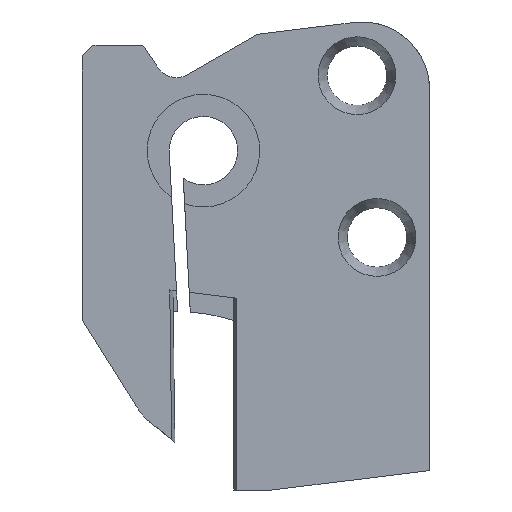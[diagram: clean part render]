
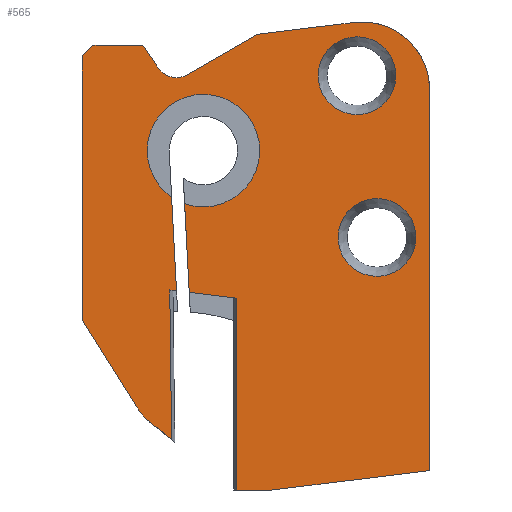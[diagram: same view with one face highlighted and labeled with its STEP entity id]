
A CAD part, left-side view. The second image highlights one B-rep face of the part: STEP entity #565.
In plain terms, the highlighted planar face has unit normal (-1, 0, 0).
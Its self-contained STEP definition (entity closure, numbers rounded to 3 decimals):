
#357=AXIS2_PLACEMENT_3D('Plane Axis2P3D',#354,#355,#356) ;
#384=AXIS2_PLACEMENT_3D('Circle Axis2P3D',#382,#383,$) ;
#403=AXIS2_PLACEMENT_3D('Circle Axis2P3D',#401,#402,$) ;
#410=AXIS2_PLACEMENT_3D('Circle Axis2P3D',#408,#409,$) ;
#417=AXIS2_PLACEMENT_3D('Circle Axis2P3D',#415,#416,$) ;
#466=AXIS2_PLACEMENT_3D('Circle Axis2P3D',#464,#465,$) ;
#487=AXIS2_PLACEMENT_3D('Circle Axis2P3D',#485,#486,$) ;
#531=AXIS2_PLACEMENT_3D('Circle Axis2P3D',#529,#530,$) ;
#540=AXIS2_PLACEMENT_3D('Circle Axis2P3D',#538,#539,$) ;
#549=AXIS2_PLACEMENT_3D('Circle Axis2P3D',#547,#548,$) ;
#558=AXIS2_PLACEMENT_3D('Circle Axis2P3D',#556,#557,$) ;
#205=CARTESIAN_POINT('Vertex',(-7.2,24.524,-48.127)) ;
#208=CARTESIAN_POINT('Line Origine',(-7.2,25.612,-47.246)) ;
#212=CARTESIAN_POINT('Vertex',(-7.2,26.7,-46.365)) ;
#335=CARTESIAN_POINT('Line Origine',(-7.2,24.611,-41.018)) ;
#339=CARTESIAN_POINT('Vertex',(-7.2,24.698,-33.91)) ;
#354=CARTESIAN_POINT('Axis2P3D Location',(-7.2,24.,-53.925)) ;
#359=CARTESIAN_POINT('Line Origine',(-7.2,32.5,-11.163)) ;
#363=CARTESIAN_POINT('Vertex',(-7.2,32.,-10.663)) ;
#365=CARTESIAN_POINT('Vertex',(-7.2,33.,-11.663)) ;
#368=CARTESIAN_POINT('Line Origine',(-7.2,33.,-24.23)) ;
#372=CARTESIAN_POINT('Vertex',(-7.2,33.,-36.797)) ;
#375=CARTESIAN_POINT('Line Origine',(-7.2,30.397,-40.963)) ;
#379=CARTESIAN_POINT('Vertex',(-7.2,27.794,-45.129)) ;
#382=CARTESIAN_POINT('Axis2P3D Location',(-7.2,23.553,-42.479)) ;
#387=CARTESIAN_POINT('Line Origine',(-7.2,24.377,-33.949)) ;
#391=CARTESIAN_POINT('Vertex',(-7.2,24.056,-33.988)) ;
#394=CARTESIAN_POINT('Line Origine',(-7.2,24.29,-29.531)) ;
#398=CARTESIAN_POINT('Vertex',(-7.2,24.523,-25.074)) ;
#401=CARTESIAN_POINT('Axis2P3D Location',(-7.2,21.5,-20.66)) ;
#405=CARTESIAN_POINT('Vertex',(-7.2,26.195,-23.225)) ;
#408=CARTESIAN_POINT('Axis2P3D Location',(-7.2,21.5,-20.66)) ;
#412=CARTESIAN_POINT('Vertex',(-7.2,16.805,-18.095)) ;
#415=CARTESIAN_POINT('Axis2P3D Location',(-7.2,21.5,-20.66)) ;
#419=CARTESIAN_POINT('Vertex',(-7.2,23.289,-25.702)) ;
#422=CARTESIAN_POINT('Line Origine',(-7.2,23.068,-29.92)) ;
#426=CARTESIAN_POINT('Vertex',(-7.2,22.847,-34.137)) ;
#429=CARTESIAN_POINT('Line Origine',(-7.2,20.59,-34.414)) ;
#433=CARTESIAN_POINT('Vertex',(-7.2,18.334,-34.691)) ;
#436=CARTESIAN_POINT('Line Origine',(-7.2,18.334,-43.808)) ;
#440=CARTESIAN_POINT('Vertex',(-7.2,18.334,-52.925)) ;
#443=CARTESIAN_POINT('Line Origine',(-7.2,16.667,-52.925)) ;
#447=CARTESIAN_POINT('Vertex',(-7.2,15.,-52.925)) ;
#450=CARTESIAN_POINT('Line Origine',(-7.2,7.5,-52.004)) ;
#454=CARTESIAN_POINT('Vertex',(-7.2,0.,-51.083)) ;
#457=CARTESIAN_POINT('Line Origine',(-7.2,0.,-32.954)) ;
#461=CARTESIAN_POINT('Vertex',(-7.2,0.,-14.825)) ;
#464=CARTESIAN_POINT('Axis2P3D Location',(-7.2,6.4,-14.825)) ;
#468=CARTESIAN_POINT('Vertex',(-7.2,7.18,-8.473)) ;
#471=CARTESIAN_POINT('Line Origine',(-7.2,11.76,-9.036)) ;
#475=CARTESIAN_POINT('Vertex',(-7.2,16.34,-9.598)) ;
#478=CARTESIAN_POINT('Line Origine',(-7.2,19.67,-11.52)) ;
#482=CARTESIAN_POINT('Vertex',(-7.2,23.,-13.443)) ;
#485=CARTESIAN_POINT('Axis2P3D Location',(-7.2,24.05,-11.624)) ;
#489=CARTESIAN_POINT('Vertex',(-7.2,25.784,-12.809)) ;
#492=CARTESIAN_POINT('Line Origine',(-7.2,26.517,-11.736)) ;
#496=CARTESIAN_POINT('Vertex',(-7.2,27.25,-10.663)) ;
#499=CARTESIAN_POINT('Line Origine',(-7.2,29.625,-10.663)) ;
#529=CARTESIAN_POINT('Axis2P3D Location',(-7.2,5.,-28.916)) ;
#533=CARTESIAN_POINT('Vertex',(-7.2,1.755,-27.143)) ;
#535=CARTESIAN_POINT('Vertex',(-7.2,8.245,-30.689)) ;
#538=CARTESIAN_POINT('Axis2P3D Location',(-7.2,5.,-28.916)) ;
#547=CARTESIAN_POINT('Axis2P3D Location',(-7.2,6.9,-13.535)) ;
#551=CARTESIAN_POINT('Vertex',(-7.2,3.655,-11.763)) ;
#553=CARTESIAN_POINT('Vertex',(-7.2,10.145,-15.308)) ;
#556=CARTESIAN_POINT('Axis2P3D Location',(-7.2,6.9,-13.535)) ;
#209=DIRECTION('Vector Direction',(0.,-0.777,-0.629)) ;
#336=DIRECTION('Vector Direction',(0.,0.012,1.)) ;
#355=DIRECTION('Axis2P3D Direction',(1.,0.,0.)) ;
#356=DIRECTION('Axis2P3D XDirection',(0.,1.,0.)) ;
#360=DIRECTION('Vector Direction',(0.,-0.707,0.707)) ;
#369=DIRECTION('Vector Direction',(0.,0.,-1.)) ;
#376=DIRECTION('Vector Direction',(0.,-0.53,-0.848)) ;
#383=DIRECTION('Axis2P3D Direction',(1.,0.,0.)) ;
#388=DIRECTION('Vector Direction',(0.,-0.993,-0.122)) ;
#395=DIRECTION('Vector Direction',(0.,0.052,0.999)) ;
#402=DIRECTION('Axis2P3D Direction',(1.,0.,0.)) ;
#409=DIRECTION('Axis2P3D Direction',(1.,0.,0.)) ;
#416=DIRECTION('Axis2P3D Direction',(1.,0.,0.)) ;
#423=DIRECTION('Vector Direction',(0.,0.052,0.999)) ;
#430=DIRECTION('Vector Direction',(0.,-0.993,-0.122)) ;
#437=DIRECTION('Vector Direction',(0.,0.,1.)) ;
#444=DIRECTION('Vector Direction',(0.,1.,0.)) ;
#451=DIRECTION('Vector Direction',(0.,0.993,-0.122)) ;
#458=DIRECTION('Vector Direction',(0.,0.,1.)) ;
#465=DIRECTION('Axis2P3D Direction',(1.,0.,0.)) ;
#472=DIRECTION('Vector Direction',(0.,-0.993,0.122)) ;
#479=DIRECTION('Vector Direction',(0.,-0.866,0.5)) ;
#486=DIRECTION('Axis2P3D Direction',(1.,0.,0.)) ;
#493=DIRECTION('Vector Direction',(0.,-0.564,-0.826)) ;
#500=DIRECTION('Vector Direction',(0.,1.,0.)) ;
#530=DIRECTION('Axis2P3D Direction',(1.,0.,0.)) ;
#539=DIRECTION('Axis2P3D Direction',(1.,0.,0.)) ;
#548=DIRECTION('Axis2P3D Direction',(1.,0.,0.)) ;
#557=DIRECTION('Axis2P3D Direction',(1.,0.,0.)) ;
#210=VECTOR('Line Direction',#209,1.) ;
#337=VECTOR('Line Direction',#336,1.) ;
#361=VECTOR('Line Direction',#360,1.) ;
#370=VECTOR('Line Direction',#369,1.) ;
#377=VECTOR('Line Direction',#376,1.) ;
#389=VECTOR('Line Direction',#388,1.) ;
#396=VECTOR('Line Direction',#395,1.) ;
#424=VECTOR('Line Direction',#423,1.) ;
#431=VECTOR('Line Direction',#430,1.) ;
#438=VECTOR('Line Direction',#437,1.) ;
#445=VECTOR('Line Direction',#444,1.) ;
#452=VECTOR('Line Direction',#451,1.) ;
#459=VECTOR('Line Direction',#458,1.) ;
#473=VECTOR('Line Direction',#472,1.) ;
#480=VECTOR('Line Direction',#479,1.) ;
#494=VECTOR('Line Direction',#493,1.) ;
#501=VECTOR('Line Direction',#500,1.) ;
#505=ORIENTED_EDGE('',*,*,#367,.T.) ;
#506=ORIENTED_EDGE('',*,*,#374,.F.) ;
#507=ORIENTED_EDGE('',*,*,#381,.T.) ;
#508=ORIENTED_EDGE('',*,*,#386,.F.) ;
#509=ORIENTED_EDGE('',*,*,#214,.T.) ;
#510=ORIENTED_EDGE('',*,*,#341,.T.) ;
#511=ORIENTED_EDGE('',*,*,#393,.T.) ;
#512=ORIENTED_EDGE('',*,*,#400,.T.) ;
#513=ORIENTED_EDGE('',*,*,#407,.T.) ;
#514=ORIENTED_EDGE('',*,*,#414,.T.) ;
#515=ORIENTED_EDGE('',*,*,#421,.T.) ;
#516=ORIENTED_EDGE('',*,*,#428,.F.) ;
#517=ORIENTED_EDGE('',*,*,#435,.T.) ;
#518=ORIENTED_EDGE('',*,*,#442,.F.) ;
#519=ORIENTED_EDGE('',*,*,#449,.F.) ;
#520=ORIENTED_EDGE('',*,*,#456,.F.) ;
#521=ORIENTED_EDGE('',*,*,#463,.F.) ;
#522=ORIENTED_EDGE('',*,*,#470,.F.) ;
#523=ORIENTED_EDGE('',*,*,#477,.F.) ;
#524=ORIENTED_EDGE('',*,*,#484,.F.) ;
#525=ORIENTED_EDGE('',*,*,#491,.T.) ;
#526=ORIENTED_EDGE('',*,*,#498,.F.) ;
#527=ORIENTED_EDGE('',*,*,#503,.T.) ;
#544=ORIENTED_EDGE('',*,*,#537,.T.) ;
#545=ORIENTED_EDGE('',*,*,#542,.T.) ;
#562=ORIENTED_EDGE('',*,*,#555,.T.) ;
#563=ORIENTED_EDGE('',*,*,#560,.T.) ;
#546=FACE_BOUND('',#543,.T.) ;
#564=FACE_BOUND('',#561,.T.) ;
#565=ADVANCED_FACE('NOCUT',(#528,#546,#564),#358,.F.) ;
#385=CIRCLE('generated circle',#384,5.) ;
#404=CIRCLE('generated circle',#403,5.35) ;
#411=CIRCLE('generated circle',#410,5.35) ;
#418=CIRCLE('generated circle',#417,5.35) ;
#467=CIRCLE('generated circle',#466,6.4) ;
#488=CIRCLE('generated circle',#487,2.1) ;
#532=CIRCLE('generated circle',#531,3.698) ;
#541=CIRCLE('generated circle',#540,3.698) ;
#550=CIRCLE('generated circle',#549,3.698) ;
#559=CIRCLE('generated circle',#558,3.698) ;
#214=EDGE_CURVE('',#213,#206,#211,.T.) ;
#341=EDGE_CURVE('',#206,#340,#338,.T.) ;
#367=EDGE_CURVE('',#364,#366,#362,.F.) ;
#374=EDGE_CURVE('',#373,#366,#371,.F.) ;
#381=EDGE_CURVE('',#373,#380,#378,.T.) ;
#386=EDGE_CURVE('',#213,#380,#385,.T.) ;
#393=EDGE_CURVE('',#340,#392,#390,.T.) ;
#400=EDGE_CURVE('',#392,#399,#397,.T.) ;
#407=EDGE_CURVE('',#399,#406,#404,.T.) ;
#414=EDGE_CURVE('',#406,#413,#411,.T.) ;
#421=EDGE_CURVE('',#413,#420,#418,.T.) ;
#428=EDGE_CURVE('',#427,#420,#425,.T.) ;
#435=EDGE_CURVE('',#427,#434,#432,.T.) ;
#442=EDGE_CURVE('',#441,#434,#439,.T.) ;
#449=EDGE_CURVE('',#448,#441,#446,.T.) ;
#456=EDGE_CURVE('',#455,#448,#453,.T.) ;
#463=EDGE_CURVE('',#462,#455,#460,.F.) ;
#470=EDGE_CURVE('',#469,#462,#467,.T.) ;
#477=EDGE_CURVE('',#476,#469,#474,.T.) ;
#484=EDGE_CURVE('',#483,#476,#481,.T.) ;
#491=EDGE_CURVE('',#483,#490,#488,.T.) ;
#498=EDGE_CURVE('',#497,#490,#495,.T.) ;
#503=EDGE_CURVE('',#497,#364,#502,.T.) ;
#537=EDGE_CURVE('',#534,#536,#532,.T.) ;
#542=EDGE_CURVE('',#536,#534,#541,.T.) ;
#555=EDGE_CURVE('',#552,#554,#550,.T.) ;
#560=EDGE_CURVE('',#554,#552,#559,.T.) ;
#504=EDGE_LOOP('',(#505,#506,#507,#508,#509,#510,#511,#512,#513,#514,#515,#516,#517,#518,#519,#520,#521,#522,#523,#524,#525,#526,#527)) ;
#543=EDGE_LOOP('',(#544,#545)) ;
#561=EDGE_LOOP('',(#562,#563)) ;
#528=FACE_OUTER_BOUND('',#504,.T.) ;
#211=LINE('Line',#208,#210) ;
#338=LINE('Line',#335,#337) ;
#362=LINE('Line',#359,#361) ;
#371=LINE('Line',#368,#370) ;
#378=LINE('Line',#375,#377) ;
#390=LINE('Line',#387,#389) ;
#397=LINE('Line',#394,#396) ;
#425=LINE('Line',#422,#424) ;
#432=LINE('Line',#429,#431) ;
#439=LINE('Line',#436,#438) ;
#446=LINE('Line',#443,#445) ;
#453=LINE('Line',#450,#452) ;
#460=LINE('Line',#457,#459) ;
#474=LINE('Line',#471,#473) ;
#481=LINE('Line',#478,#480) ;
#495=LINE('Line',#492,#494) ;
#502=LINE('Line',#499,#501) ;
#358=PLANE('',#357) ;
#206=VERTEX_POINT('',#205) ;
#213=VERTEX_POINT('',#212) ;
#340=VERTEX_POINT('',#339) ;
#364=VERTEX_POINT('',#363) ;
#366=VERTEX_POINT('',#365) ;
#373=VERTEX_POINT('',#372) ;
#380=VERTEX_POINT('',#379) ;
#392=VERTEX_POINT('',#391) ;
#399=VERTEX_POINT('',#398) ;
#406=VERTEX_POINT('',#405) ;
#413=VERTEX_POINT('',#412) ;
#420=VERTEX_POINT('',#419) ;
#427=VERTEX_POINT('',#426) ;
#434=VERTEX_POINT('',#433) ;
#441=VERTEX_POINT('',#440) ;
#448=VERTEX_POINT('',#447) ;
#455=VERTEX_POINT('',#454) ;
#462=VERTEX_POINT('',#461) ;
#469=VERTEX_POINT('',#468) ;
#476=VERTEX_POINT('',#475) ;
#483=VERTEX_POINT('',#482) ;
#490=VERTEX_POINT('',#489) ;
#497=VERTEX_POINT('',#496) ;
#534=VERTEX_POINT('',#533) ;
#536=VERTEX_POINT('',#535) ;
#552=VERTEX_POINT('',#551) ;
#554=VERTEX_POINT('',#553) ;
